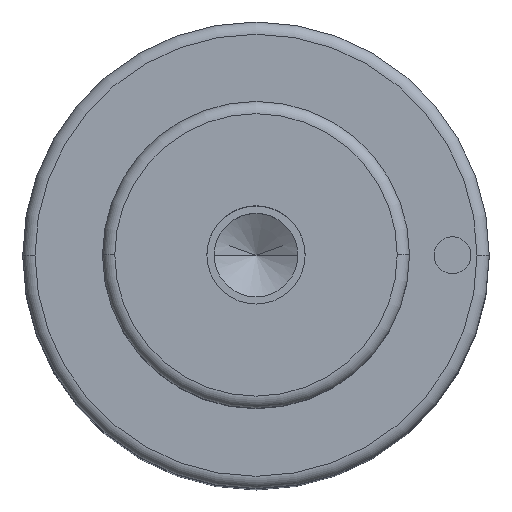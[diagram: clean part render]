
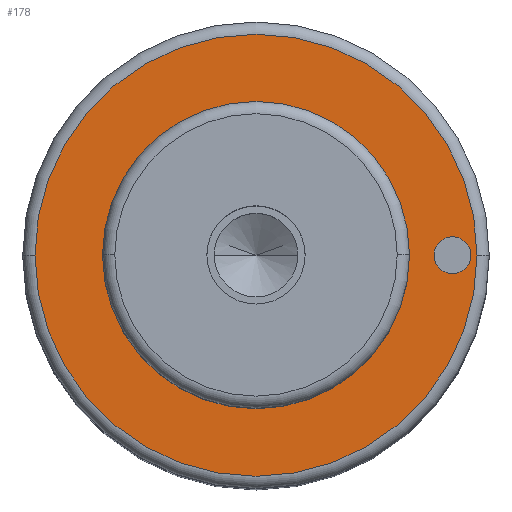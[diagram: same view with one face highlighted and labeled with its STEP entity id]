
A CAD part, top view. The second image highlights one B-rep face of the part: STEP entity #178.
In plain terms, the highlighted planar face has unit normal (0, 0, 1).
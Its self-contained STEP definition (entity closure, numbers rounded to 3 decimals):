
#105=PLANE('',#866);
#115=FACE_BOUND('',#283,.T.);
#116=FACE_BOUND('',#284,.T.);
#117=FACE_BOUND('',#285,.T.);
#178=ADVANCED_FACE('',(#115,#116,#117),#105,.T.);
#283=EDGE_LOOP('',(#473,#474));
#284=EDGE_LOOP('',(#475,#476));
#285=EDGE_LOOP('',(#477,#478));
#333=CIRCLE('',#834,12.5);
#334=CIRCLE('',#836,12.5);
#338=CIRCLE('',#841,18.);
#339=CIRCLE('',#843,18.);
#351=CIRCLE('',#864,1.5);
#352=CIRCLE('',#865,1.5);
#473=ORIENTED_EDGE('',*,*,#666,.F.);
#474=ORIENTED_EDGE('',*,*,#667,.F.);
#475=ORIENTED_EDGE('',*,*,#685,.F.);
#476=ORIENTED_EDGE('',*,*,#686,.F.);
#477=ORIENTED_EDGE('',*,*,#662,.T.);
#478=ORIENTED_EDGE('',*,*,#660,.T.);
#590=VERTEX_POINT('',#1233);
#591=VERTEX_POINT('',#1235);
#592=VERTEX_POINT('',#1241);
#595=VERTEX_POINT('',#1246);
#604=VERTEX_POINT('',#1285);
#605=VERTEX_POINT('',#1286);
#660=EDGE_CURVE('',#591,#590,#333,.T.);
#662=EDGE_CURVE('',#590,#591,#334,.T.);
#666=EDGE_CURVE('',#595,#592,#338,.T.);
#667=EDGE_CURVE('',#592,#595,#339,.T.);
#685=EDGE_CURVE('',#604,#605,#351,.T.);
#686=EDGE_CURVE('',#605,#604,#352,.T.);
#834=AXIS2_PLACEMENT_3D('',#1234,#985,#986);
#836=AXIS2_PLACEMENT_3D('',#1238,#990,#991);
#841=AXIS2_PLACEMENT_3D('',#1247,#1000,#1001);
#843=AXIS2_PLACEMENT_3D('',#1249,#1004,#1005);
#864=AXIS2_PLACEMENT_3D('',#1284,#1052,#1053);
#865=AXIS2_PLACEMENT_3D('',#1287,#1054,#1055);
#866=AXIS2_PLACEMENT_3D('',#1288,#1056,#1057);
#985=DIRECTION('',(0.,0.,-1.));
#986=DIRECTION('',(0.,1.,0.));
#990=DIRECTION('',(0.,0.,-1.));
#991=DIRECTION('',(0.,-1.,0.));
#1000=DIRECTION('',(0.,0.,-1.));
#1001=DIRECTION('',(0.,1.,0.));
#1004=DIRECTION('',(0.,0.,-1.));
#1005=DIRECTION('',(0.,-1.,0.));
#1052=DIRECTION('',(0.,0.,1.));
#1053=DIRECTION('',(0.,1.,0.));
#1054=DIRECTION('',(0.,0.,1.));
#1055=DIRECTION('',(0.,-1.,0.));
#1056=DIRECTION('',(0.,0.,1.));
#1057=DIRECTION('',(0.,-1.,0.));
#1233=CARTESIAN_POINT('',(-12.5,0.,68.));
#1234=CARTESIAN_POINT('',(0.,0.,68.));
#1235=CARTESIAN_POINT('',(12.5,0.,68.));
#1238=CARTESIAN_POINT('',(0.,0.,68.));
#1241=CARTESIAN_POINT('',(-18.,0.,68.));
#1246=CARTESIAN_POINT('',(18.,0.,68.));
#1247=CARTESIAN_POINT('',(0.,0.,68.));
#1249=CARTESIAN_POINT('',(0.,0.,68.));
#1284=CARTESIAN_POINT('',(16.,0.,68.));
#1285=CARTESIAN_POINT('',(14.5,0.,68.));
#1286=CARTESIAN_POINT('',(17.5,0.,68.));
#1287=CARTESIAN_POINT('',(16.,0.,68.));
#1288=CARTESIAN_POINT('',(0.,0.,68.));
